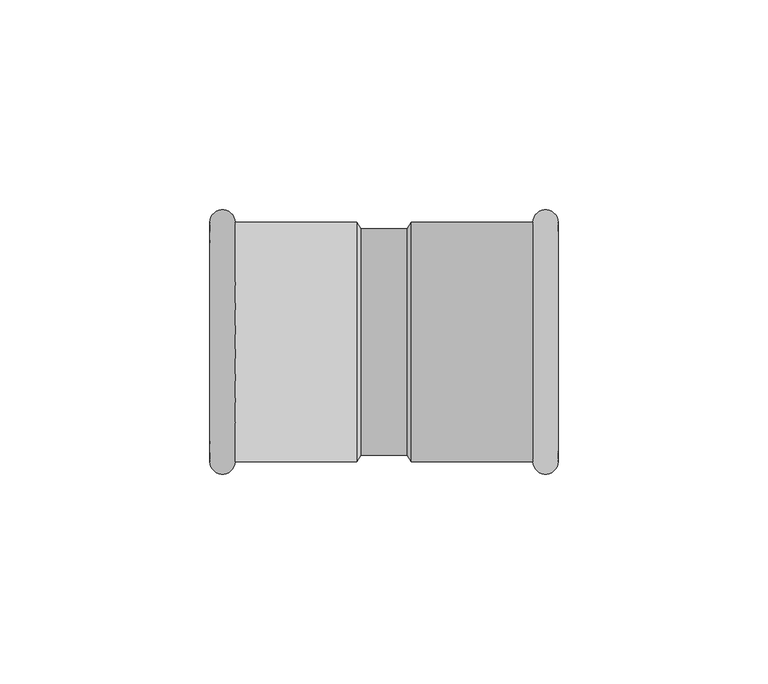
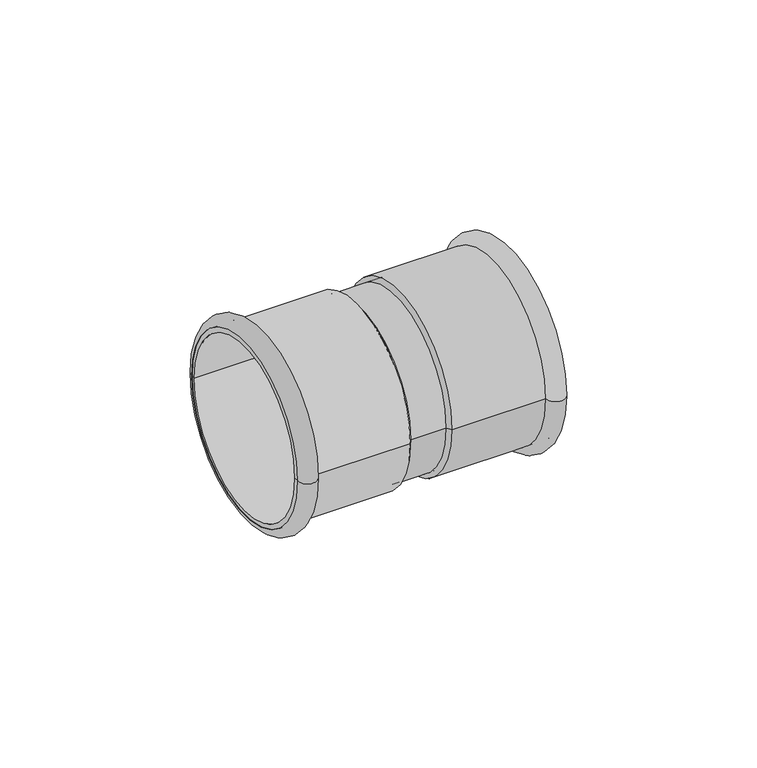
"""IFC4 building model written with IfcOpenShell, lengths in millimetres: pipe fitting geometry, NLRS_50_PIF_UN_Geberit Mapress Therm sok_PRO_3207533 : DN10-100 / d12-108 - OD."""

from ifc_helpers import new_model, si_unit, point, frame, origin, origin_2d, place, context, project, spatial, polyline, circle_curve, ellipse_curve, trimmed, segment, composite_curve, outline, extrude, source, transform, mapped, element, save
from ifc_brep_helpers import plane_surface, cylinder_surface, revolved_surface, advanced_brep


def pipe_fitting_d1afa636(model_context):
    return source(origin(), model_context, "Body", "SolidModel", [
        advanced_brep(
        [(-41.5, 28.5, 0.0), (-41.5, -28.5, 0.0), (-35.4987073, -28.5, 0.0), (-35.4987073, 28.5, 0.0)],
        [
            (0, 1, circle_curve(frame((-41.5, 0.0, 0.0), z_axis=(-1.0, 0.0, 0.0), x_axis=(0.0, -1.0, 0.0)), 28.5)),
            (1, 2),
            (2, 3, circle_curve(frame((-35.4987073, 0.0, 0.0), z_axis=(1.0, 0.0, 0.0), x_axis=(0.0, -1.0, 0.0)), 28.5)),
            (3, 0),
            (1, 0, circle_curve(frame((-41.5, 0.0, 0.0), z_axis=(-1.0, 0.0, 0.0), x_axis=(0.0, -1.0, 0.0)), 28.5)),
            (3, 2, circle_curve(frame((-35.4987073, 0.0, 0.0), z_axis=(1.0, 0.0, 0.0), x_axis=(0.0, -1.0, 0.0)), 28.5)),
            (2, 1, circle_curve(frame((-38.4993536, -28.5, 0.0), z_axis=(0.0, 0.0, -1.0), x_axis=(-1.0, 0.0, 0.0)), 3.0006464)),
            (0, 3, circle_curve(frame((-38.4993536, 28.5, 0.0), z_axis=(0.0, 0.0, -1.0), x_axis=(-1.0, 0.0, 0.0)), 3.0006464)),
        ],
        [
            revolved_surface(polyline([(-35.4987073, -28.5, 0.0), (-41.5, -28.5, 0.0)]), (-6.5, 0.0, 0.0), (1.0, 0.0, 0.0)),
            revolved_surface(trimmed(ellipse_curve(frame((-38.4993536, -28.5, 0.0), z_axis=(0.0, 0.0, 1.0), x_axis=(-1.0, 0.0, 0.0)), 3.0006464, 3.0006464), [point((-41.5, -28.5, 0.0))], [point((-35.4987073, -28.5, 0.0))], True, "CARTESIAN"), (-6.5, 0.0, 0.0), (1.0, 0.0, 0.0)),
        ],
        [
            (0, [[1, 2, 3, 4]]),
            (0, [[5, -4, 6, -2]]),
            (1, [[-3, 7, -1, 8]]),
            (1, [[-6, -8, -5, -7]]),
        ],
    ),
        advanced_brep(
        [(-41.5, 27.0, 0.0), (-41.5, -27.0, 0.0), (-5.5, -27.0, 0.0), (-5.5, 27.0, 0.0), (-41.5, 28.5, 0.0), (-41.5, -28.5, 0.0), (-6.5, 28.5, 0.0), (-6.5, -28.5, 0.0)],
        [
            (0, 1, circle_curve(frame((-41.5, 0.0, 0.0), z_axis=(-1.0, 0.0, 0.0), x_axis=(0.0, -1.0, 0.0)), 27.0)),
            (1, 2),
            (2, 3, circle_curve(frame((-5.5, 0.0, 0.0), z_axis=(1.0, 0.0, 0.0), x_axis=(0.0, -1.0, 0.0)), 27.0)),
            (3, 0),
            (1, 0, circle_curve(frame((-41.5, 0.0, 0.0), z_axis=(-1.0, 0.0, 0.0), x_axis=(0.0, -1.0, 0.0)), 27.0)),
            (3, 2, circle_curve(frame((-5.5, 0.0, 0.0), z_axis=(1.0, 0.0, 0.0), x_axis=(0.0, -1.0, 0.0)), 27.0)),
            (4, 5, circle_curve(frame((-41.5, 0.0, 0.0), z_axis=(-1.0, 0.0, 0.0), x_axis=(0.0, -1.0, 0.0)), 28.5)),
            (5, 1),
            (0, 4),
            (5, 4, circle_curve(frame((-41.5, 0.0, 0.0), z_axis=(-1.0, 0.0, 0.0), x_axis=(0.0, -1.0, 0.0)), 28.5)),
            (6, 7, circle_curve(frame((-6.5, 0.0, 0.0), z_axis=(-1.0, 0.0, 0.0), x_axis=(0.0, -1.0, 0.0)), 28.5)),
            (7, 5),
            (4, 6),
            (7, 6, circle_curve(frame((-6.5, 0.0, 0.0), z_axis=(-1.0, 0.0, 0.0), x_axis=(0.0, -1.0, 0.0)), 28.5)),
            (2, 7),
            (6, 3),
        ],
        [
            revolved_surface(polyline([(-5.5, -27.0, 0.0), (-41.5, -27.0, 0.0)]), (-6.5, 0.0, 0.0), (1.0, 0.0, 0.0)),
            plane_surface(frame((-41.5, 0.0, 0.0), z_axis=(-1.0, 0.0, 0.0), x_axis=(0.0, -1.0, 0.0))),
            cylinder_surface(frame((-6.5, 0.0, 0.0), z_axis=(1.0, 0.0, 0.0), x_axis=(0.0, -1.0, 0.0)), 28.5),
            revolved_surface(polyline([(-6.5, -28.5, 0.0), (-5.5, -27.0, 0.0)]), (-6.5, 0.0, 0.0), (1.0, 0.0, 0.0)),
        ],
        [
            (0, [[1, 2, 3, 4]]),
            (0, [[5, -4, 6, -2]]),
            (1, [[7, 8, -1, 9]]),
            (1, [[10, -9, -5, -8]]),
            (2, [[11, 12, -7, 13]]),
            (2, [[14, -13, -10, -12]]),
            (3, [[-3, 15, -11, 16]]),
            (3, [[-6, -16, -14, -15]]),
        ],
    ),
        advanced_brep(
        [(41.5, -28.5, 0.0), (41.5, 28.5, 0.0), (35.4987073, 28.5, 0.0), (35.4987073, -28.5, 0.0)],
        [
            (0, 1, circle_curve(frame((41.5, 0.0, 0.0), z_axis=(1.0, 0.0, 0.0), x_axis=(0.0, 1.0, 0.0)), 28.5)),
            (1, 2),
            (2, 3, circle_curve(frame((35.4987073, 0.0, 0.0), z_axis=(-1.0, 0.0, 0.0), x_axis=(0.0, 1.0, 0.0)), 28.5)),
            (3, 0),
            (1, 0, circle_curve(frame((41.5, 0.0, 0.0), z_axis=(1.0, 0.0, 0.0), x_axis=(0.0, 1.0, 0.0)), 28.5)),
            (3, 2, circle_curve(frame((35.4987073, 0.0, 0.0), z_axis=(-1.0, 0.0, 0.0), x_axis=(0.0, 1.0, 0.0)), 28.5)),
            (2, 1, circle_curve(frame((38.4993536, 28.5, 0.0), z_axis=(0.0, 0.0, -1.0), x_axis=(1.0, 0.0, 0.0)), 3.0006464)),
            (0, 3, circle_curve(frame((38.4993536, -28.5, 0.0), z_axis=(0.0, 0.0, -1.0), x_axis=(1.0, 0.0, 0.0)), 3.0006464)),
        ],
        [
            revolved_surface(polyline([(35.4987073, 28.5, 0.0), (41.5, 28.5, 0.0)]), (6.5, 0.0, 0.0), (-1.0, 0.0, 0.0)),
            revolved_surface(trimmed(ellipse_curve(frame((38.4993536, 28.5, 0.0), z_axis=(0.0, 0.0, 1.0), x_axis=(1.0, 0.0, 0.0)), 3.0006464, 3.0006464), [point((41.5, 28.5, 0.0))], [point((35.4987073, 28.5, 0.0))], True, "CARTESIAN"), (6.5, 0.0, 0.0), (-1.0, 0.0, 0.0)),
        ],
        [
            (0, [[1, 2, 3, 4]]),
            (0, [[5, -4, 6, -2]]),
            (1, [[-3, 7, -1, 8]]),
            (1, [[-6, -8, -5, -7]]),
        ],
    ),
        advanced_brep(
        [(41.5, -27.0, 0.0), (41.5, 27.0, 0.0), (5.5, 27.0, 0.0), (5.5, -27.0, 0.0), (41.5, -28.5, 0.0), (41.5, 28.5, 0.0), (6.5, -28.5, 0.0), (6.5, 28.5, 0.0)],
        [
            (0, 1, circle_curve(frame((41.5, 0.0, 0.0), z_axis=(1.0, 0.0, 0.0), x_axis=(0.0, 1.0, 0.0)), 27.0)),
            (1, 2),
            (2, 3, circle_curve(frame((5.5, 0.0, 0.0), z_axis=(-1.0, 0.0, 0.0), x_axis=(0.0, 1.0, 0.0)), 27.0)),
            (3, 0),
            (1, 0, circle_curve(frame((41.5, 0.0, 0.0), z_axis=(1.0, 0.0, 0.0), x_axis=(0.0, 1.0, 0.0)), 27.0)),
            (3, 2, circle_curve(frame((5.5, 0.0, 0.0), z_axis=(-1.0, 0.0, 0.0), x_axis=(0.0, 1.0, 0.0)), 27.0)),
            (4, 5, circle_curve(frame((41.5, 0.0, 0.0), z_axis=(1.0, 0.0, 0.0), x_axis=(0.0, 1.0, 0.0)), 28.5)),
            (5, 1),
            (0, 4),
            (5, 4, circle_curve(frame((41.5, 0.0, 0.0), z_axis=(1.0, 0.0, 0.0), x_axis=(0.0, 1.0, 0.0)), 28.5)),
            (6, 7, circle_curve(frame((6.5, 0.0, 0.0), z_axis=(1.0, 0.0, 0.0), x_axis=(0.0, 1.0, 0.0)), 28.5)),
            (7, 5),
            (4, 6),
            (7, 6, circle_curve(frame((6.5, 0.0, 0.0), z_axis=(1.0, 0.0, 0.0), x_axis=(0.0, 1.0, 0.0)), 28.5)),
            (2, 7),
            (6, 3),
        ],
        [
            revolved_surface(polyline([(5.5, 27.0, 0.0), (41.5, 27.0, 0.0)]), (6.5, 0.0, 0.0), (-1.0, 0.0, 0.0)),
            plane_surface(frame((41.5, 0.0, 0.0), z_axis=(1.0, 0.0, 0.0), x_axis=(0.0, 1.0, 0.0))),
            cylinder_surface(frame((6.5, 0.0, 0.0), z_axis=(-1.0, 0.0, 0.0), x_axis=(0.0, 1.0, 0.0)), 28.5),
            revolved_surface(polyline([(6.5, 28.5, 0.0), (5.5, 27.0, 0.0)]), (6.5, 0.0, 0.0), (-1.0, 0.0, 0.0)),
        ],
        [
            (0, [[1, 2, 3, 4]]),
            (0, [[5, -4, 6, -2]]),
            (1, [[7, 8, -1, 9]]),
            (1, [[10, -9, -5, -8]]),
            (2, [[11, 12, -7, 13]]),
            (2, [[14, -13, -10, -12]]),
            (3, [[-3, 15, -11, 16]]),
            (3, [[-6, -16, -14, -15]]),
        ],
    ),
        extrude(outline(composite_curve([segment(trimmed(circle_curve(origin_2d(), 27.0), [point((-27.0, 0.0))], [point((27.0, 0.0))], False, "CARTESIAN"), True, "CONTINUOUS"), segment(trimmed(circle_curve(origin_2d(), 27.0), [point((27.0, 0.0))], [point((-27.0, 0.0))], False, "CARTESIAN"), True, "CONTINUOUS")], self_intersect=False)), frame((-6.5, 0.0, 0.0), z_axis=(1.0, 0.0, 0.0), x_axis=(0.0, 1.0, 0.0)), (0.0, 0.0, 1.0), 13.0),
    ])


if __name__ == "__main__":
    model = new_model("IFC4")
    model_context = context("Model", 3, world=origin())
    ifc_project = project(units=[si_unit("LENGTHUNIT", "METRE", prefix="MILLI")], contexts=[model_context])
    site = spatial("IfcSite", under=ifc_project)
    building = spatial("IfcBuilding", under=site)
    placement = place(None, origin())
    pipe_fitting_shape = pipe_fitting_d1afa636(model_context)
    element("IfcPipeFitting", 1, ObjectType="NLRS_50_PIF_UN_Geberit Mapress Therm sok_PRO_3207533 : DN10-100 / d12-108 - OD", at=placement, inside=building, context=model_context, shape_type="MappedRepresentation", body=[
        mapped(pipe_fitting_shape, transform((0.0, 0.0, 0.0), x_axis=(1.0, 0.0, 0.0), y_axis=(0.0, 1.0, 0.0), z_axis=(0.0, 0.0, 1.0))),
    ])
    save(model, "model.ifc")
